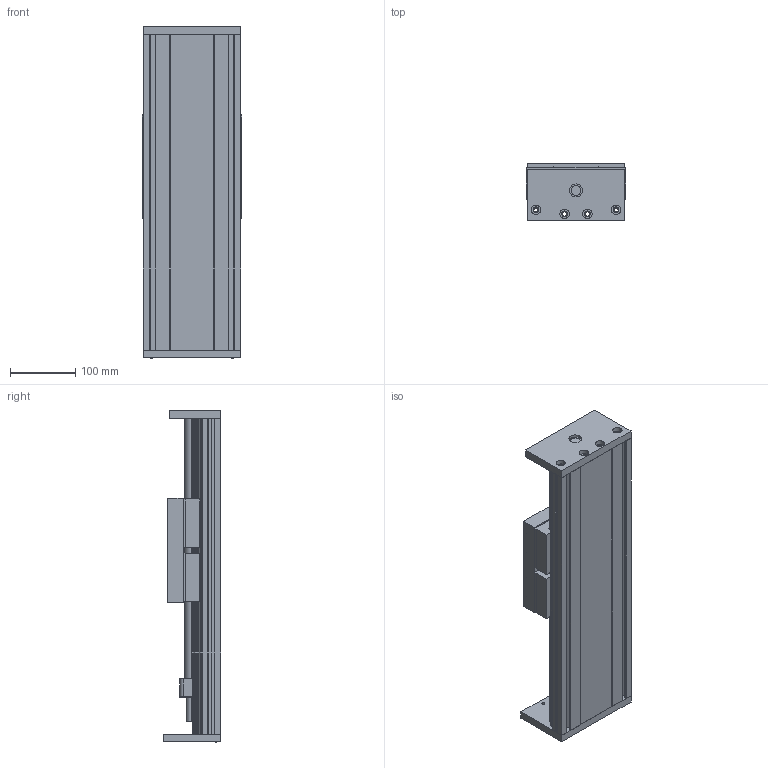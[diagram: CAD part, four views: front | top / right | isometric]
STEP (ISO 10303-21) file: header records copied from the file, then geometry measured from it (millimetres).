
FILE_DESCRIPTION (( 'STEP AP203' ), '1' );
FILE_NAME ('KGX150-300.STEP', '2024-04-22T05:21:20', ( '' ), ( '' ), 'SwSTEP 2.0', 'SolidWorks 2020', '' );
FILE_SCHEMA (( 'CONFIG_CONTROL_DESIGN' ));
Length unit declared in the file: millimetre
Products named in the file (1): KGX150-300
Bounding box: 152.3 x 89 x 510 mm (x, y, z)
Volume: 2273044.7 mm3; surface area: 822423.8 mm2
Topology: 17 solids, 17 shells, 950 faces, 2508 edges, 1672 vertices
Faces by surface type: cylinder 506, plane 444
Entity records: 30467 total; most frequent: CARTESIAN_POINT 5489, DIRECTION 5426, ORIENTED_EDGE 5016, EDGE_CURVE 2508, AXIS2_PLACEMENT_3D 1971, VERTEX_POINT 1672, VECTOR 1484, LINE 1484
